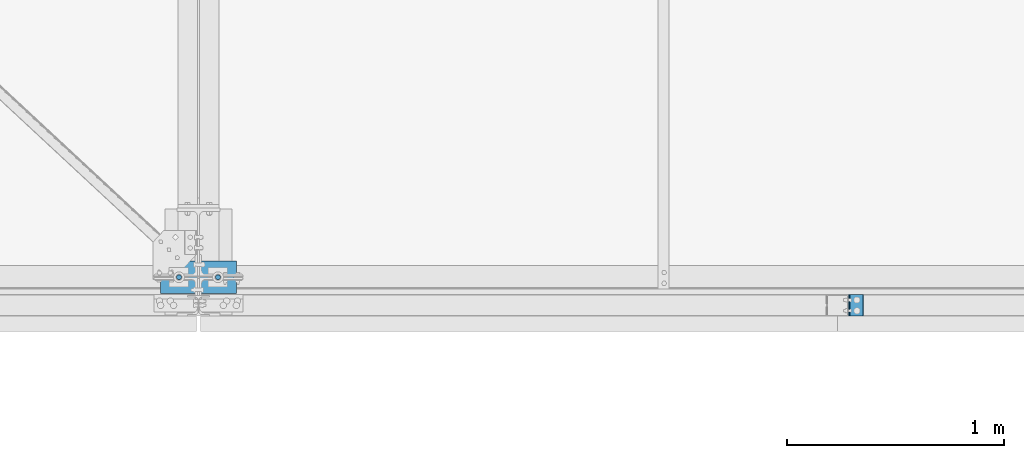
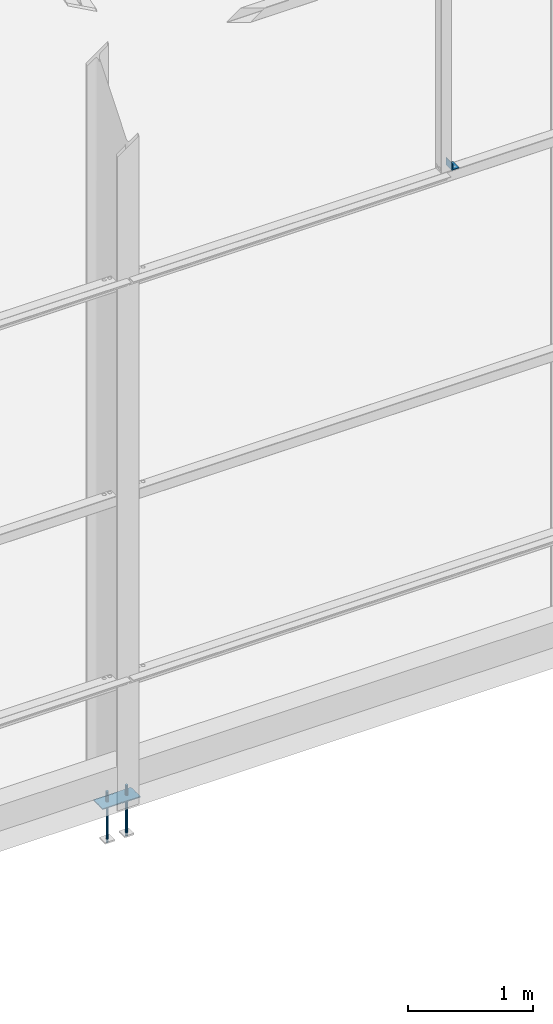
# One storey, part 63 of 362: 6 beams, 2 elements without a shape of their own.
"""IFC2X3 building model written with IfcOpenShell, lengths in millimetres."""

from ifc_helpers import new_model, si_unit, frame, origin_with_axes, origin_2d_with_axis, place, context, subcontext, project, spatial, polyline, rectangle, circle, l_section, outline, extrude, boolean, material, type_object, element, aggregate, save


model = new_model("IFC2X3")

# Units and contexts
model_context = context("Model", 3, precision=1e-05, world=origin_with_axes())
body_context = subcontext(model_context, "Body", "Model", "MODEL_VIEW")
ifc_project = project(units=[si_unit("LENGTHUNIT", "METRE", prefix="MILLI"), si_unit("AREAUNIT", "SQUARE_METRE"), si_unit("VOLUMEUNIT", "CUBIC_METRE"), si_unit("MASSUNIT", "GRAM", prefix="KILO"), si_unit("TIMEUNIT", "SECOND"), si_unit("PLANEANGLEUNIT", "RADIAN"), si_unit("SOLIDANGLEUNIT", "STERADIAN"), si_unit("THERMODYNAMICTEMPERATUREUNIT", "DEGREE_CELSIUS"), si_unit("LUMINOUSINTENSITYUNIT", "LUMEN")], contexts=[model_context])

# Site, building, storey
site_placement = place(None, origin_with_axes())
site = spatial("IfcSite", under=ifc_project, at=site_placement, Name="Undefined", CompositionType="ELEMENT")
building_placement = place(site_placement, origin_with_axes())
building = spatial("IfcBuilding", under=site, at=building_placement, Name="Undefined", CompositionType="ELEMENT")
storey_placement = place(building_placement, origin_with_axes())
storey = spatial("IfcBuildingStorey", under=building, at=storey_placement, Name="Undefined", CompositionType="ELEMENT", Elevation=0.0)

# Assembly, beam
assembly_1_placement = place(storey_placement, origin_with_axes())
assembly_1 = element("IfcElementAssembly", 1, at=assembly_1_placement, inside=storey, AssemblyPlace="NOTDEFINED", PredefinedType="NOTDEFINED")
ifc_material = material(Name="Undefined/S235-E24")
beam_type_1 = type_object("IfcBeamType", Name="L70*7", PredefinedType="NOTDEFINED")
beam_1_placement = place(assembly_1_placement, frame((7215.00258221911, -180.000008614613, 5035.0), z_axis=(0.0, 0.0, 1.0), x_axis=(0.0, 1.0, 0.0)))
beam_1 = element("IfcBeam", 2, at=beam_1_placement, type_object=beam_type_1, material=ifc_material, Name="ATTACHE", ObjectType="L70*7", context=body_context, shape_type="SweptSolid", body=[
    extrude(l_section(Depth=70.0, Width=70.0, Thickness=7.0, FilletRadius=9.0, EdgeRadius=4.5, at=origin_2d_with_axis()), frame((99.9999999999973, -1.63709046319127e-11, 7.73070496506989e-12), z_axis=(-1.0, 0.0, 0.0), x_axis=(0.0, -1.0, 0.0)), (0.0, 0.0, 1.0), 100.0),
])
aggregate(assembly_1, [beam_1])

# Assembly, beams
assembly_2_placement = place(storey_placement, origin_with_axes())
assembly_2 = element("IfcElementAssembly", 3, at=assembly_2_placement, inside=storey, Name="PRESCELLEMENT PS24", AssemblyPlace="NOTDEFINED", PredefinedType="NOTDEFINED")
beam_type_2 = type_object("IfcBeamType", Name="D24", PredefinedType="NOTDEFINED")
beam_2_placement = place(assembly_2_placement, frame((4089.99715044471, 0.0, -100.0), z_axis=(0.0, 1.0, 0.0), x_axis=(0.0, 0.0, -1.0)))
beam_2 = element("IfcBeam", 4, at=beam_2_placement, type_object=beam_type_2, material=ifc_material, Name="TIGE D'ANCRAGE", ObjectType="D24", context=body_context, shape_type="SweptSolid", body=[
    extrude(circle(Radius=12.0, at=origin_2d_with_axis()), frame((150.0, 0.0, 0.0), z_axis=(-1.0, 0.0, 0.0), x_axis=(0.0, -1.0, 0.0)), (0.0, 0.0, 1.0), 150.0),
])
beam_3_placement = place(assembly_2_placement, frame((4269.99715044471, 0.0, -100.0), z_axis=(0.0, 1.0, 0.0), x_axis=(0.0, 0.0, -1.0)))
beam_3 = element("IfcBeam", 5, at=beam_3_placement, type_object=beam_type_2, material=ifc_material, Name="TIGE D'ANCRAGE", ObjectType="D24", context=body_context, shape_type="SweptSolid", body=[
    extrude(circle(Radius=12.0, at=origin_2d_with_axis()), frame((150.0, 0.0, 0.0), z_axis=(-1.0, 0.0, 0.0), x_axis=(0.0, -1.0, 0.0)), (0.0, 0.0, 1.0), 150.0),
])
beam_type_3 = type_object("IfcBeamType", Name="D22", PredefinedType="NOTDEFINED")
beam_4_placement = place(assembly_2_placement, frame((4089.99715044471, 0.0, -250.0), z_axis=(0.0, 1.0, 0.0), x_axis=(0.0, 0.0, -1.0)))
beam_4 = element("IfcBeam", 6, at=beam_4_placement, type_object=beam_type_3, material=ifc_material, Name="TIGE D'ANCRAGE", ObjectType="D22", context=body_context, shape_type="SweptSolid", body=[
    extrude(circle(Radius=11.0, at=origin_2d_with_axis()), frame((350.0, 0.0, 0.0), z_axis=(-1.0, 0.0, 0.0), x_axis=(0.0, -1.0, 0.0)), (0.0, 0.0, 1.0), 350.0),
])
beam_5_placement = place(assembly_2_placement, frame((4269.99715044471, 0.0, -250.0), z_axis=(0.0, 1.0, 0.0), x_axis=(0.0, 0.0, -1.0)))
beam_5 = element("IfcBeam", 7, at=beam_5_placement, type_object=beam_type_3, material=ifc_material, Name="TIGE D'ANCRAGE", ObjectType="D22", context=body_context, shape_type="SweptSolid", body=[
    extrude(circle(Radius=11.0, at=origin_2d_with_axis()), frame((350.0, 0.0, 0.0), z_axis=(-1.0, 0.0, 0.0), x_axis=(0.0, -1.0, 0.0)), (0.0, 0.0, 1.0), 350.0),
])
beam_type_4 = type_object("IfcBeamType", Name="PL10*150", PredefinedType="NOTDEFINED")
beam_6_placement = place(assembly_2_placement, frame((4355.0, 0.0, -205.0), z_axis=(0.0, -1.0, 0.0), x_axis=(-1.0, 0.0, 0.0)))
beam_6 = element("IfcBeam", 8, at=beam_6_placement, type_object=beam_type_4, material=ifc_material, Name="PRESCELLEMENT PS24", ObjectType="PL10*150", context=body_context, shape_type="CSG", body=[
    boolean("DIFFERENCE", boolean("DIFFERENCE", boolean("DIFFERENCE", boolean("DIFFERENCE", extrude(rectangle(XDim=10.0, YDim=150.0, at=origin_2d_with_axis()), frame((350.0, 0.0, 0.0), z_axis=(-1.0, 0.0, 0.0), x_axis=(0.0, -1.0, 0.0)), (0.0, 0.0, 1.0), 350.0), extrude(outline(polyline([(0.0, 0.0), (11.1803398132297, 1.2732925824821e-11), (4.47213602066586, 8.94427204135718), (0.0, 0.0)])), frame((0.0, 7.5, -5.0), z_axis=(0.0, -1.0, 0.0), x_axis=(0.894427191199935, 0.0, 0.44721359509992)), (0.0, 0.0, 1.0), 15.0)), extrude(outline(polyline([(0.0, 0.0), (11.1803398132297, 1.2732925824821e-11), (4.47213602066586, 8.94427204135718), (0.0, 0.0)])), frame((180.0, 7.5, -75.0), z_axis=(0.0, -1.0, 0.0), x_axis=(-0.447213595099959, 0.0, 0.894427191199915)), (0.0, 0.0, 1.0), 15.0)), extrude(outline(polyline([(0.0, 0.0), (11.1803398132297, 1.2732925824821e-11), (6.70820379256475, 8.94427204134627), (0.0, 0.0)])), frame((340.0, 7.5, 0.0), z_axis=(0.0, -1.0, 0.0), x_axis=(0.894427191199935, 0.0, -0.44721359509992)), (0.0, 0.0, 1.0), 15.0)), extrude(outline(polyline([(0.0, 0.0), (11.1803398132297, 1.2732925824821e-11), (4.47213602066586, 8.94427204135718), (0.0, 0.0)])), frame((170.0, 7.5, 75.0), z_axis=(0.0, -1.0, 0.0), x_axis=(0.447213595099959, 0.0, -0.894427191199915)), (0.0, 0.0, 1.0), 15.0)),
])
aggregate(assembly_2, [beam_2, beam_4, beam_3, beam_5, beam_6])

save(model, "model.ifc")
